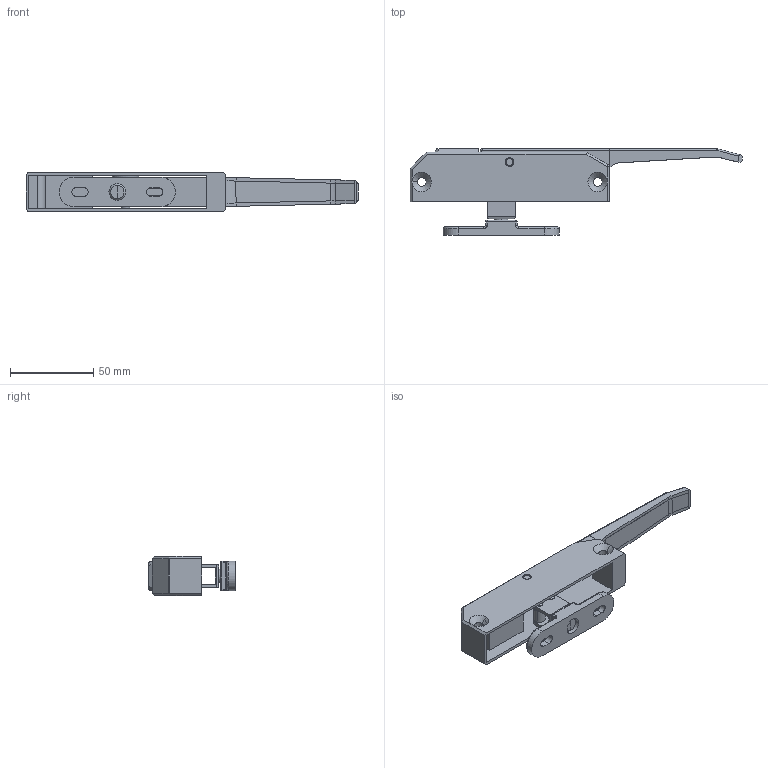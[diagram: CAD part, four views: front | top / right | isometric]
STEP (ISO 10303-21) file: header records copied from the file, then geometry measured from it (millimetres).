
FILE_DESCRIPTION (( 'STEP AP214' ), '1' );
FILE_NAME ('A73 KA-901.STEP', '2016-11-25T01:25:54', ( '' ), ( '' ), 'SwSTEP 2.0', 'SolidWorks 2011', '' );
FILE_SCHEMA (( 'AUTOMOTIVE_DESIGN' ));
Length unit declared in the file: millimetre
Products named in the file (1): A73 KA-901
Bounding box: 200 x 52.06 x 23.5 mm (x, y, z)
Volume: 60170.9 mm3; surface area: 34687.4 mm2
Topology: 3 solids, 5 shells, 322 faces, 815 edges, 506 vertices
Faces by surface type: plane 136, cylinder 124, cone 32, bspline 18, sphere 10, torus 2
Entity records: 13395 total; most frequent: CARTESIAN_POINT 2216, ORIENTED_EDGE 1596, DIRECTION 1574, EDGE_CURVE 798, AXIS2_PLACEMENT_3D 552, VERTEX_POINT 502, LINE 470, VECTOR 470
